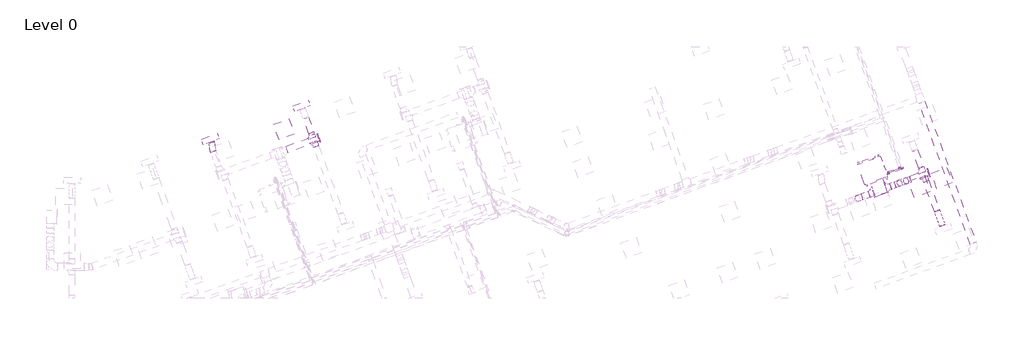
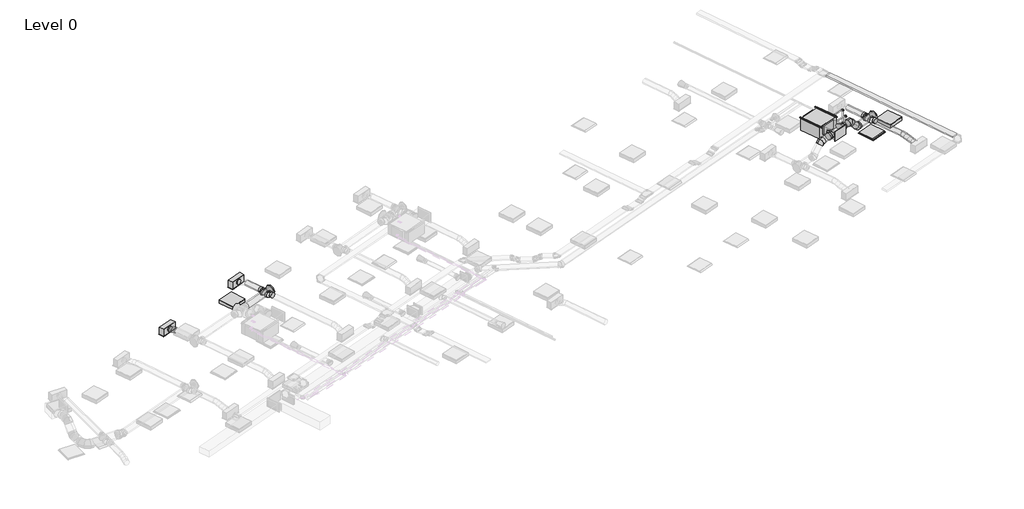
# One storey, part 29 of 34: 12 duct fittings, 11 duct segments, 6 pipe fittings, 4 pipe segments, 3 air terminals, 2 light fixtures, 1 cable carrier segment, 1 proxy.
"""IFC4 building model written with IfcOpenShell, lengths in millimetres."""

from ifc_helpers import new_model, si_unit, point, frame, frame_2d, origin, place, context, project, spatial, polyline, circle_curve, ellipse_curve, trimmed, segment, composite_curve, outline, extrude, transform, mapped, element, save
from ifc_brep_helpers import plane_surface, cylinder_surface, advanced_brep
from components import return_grille_rectangular_hosted_standard_7b12617c, supply_diffuser_with_plenum_linear_slot_hosted_8c379eed, fan_coil_unit_ceiling_ducted_chw_376_lps_9c8cc8ac, dw144_rectangular_blank_end_standard_1669e3e3, dw144_round_blank_end_standard_e3d0b58b, dw144_round_segmented_bend_slip_joint_standard_636bd9c1, dw144_round_shoe_branch_slip_joint1_standard_2_15a2edd8, dw144_round_shoe_branch_slip_joint1_standard_2_4a92c8a1, dw144_round_shoe_branch_slip_joint1_standard_2_671412f0, troffer_light_2x2_parabolic_2_x2_2_lamp_120v_6a063ff3, elbow_threaded_gmi_standard_b4aa7741, socket_reducing_threaded_gmi_standard_0a4076b8

model = new_model("IFC4")

# Units and contexts
model_context = context("Model", 3, world=origin())
ifc_project = project(units=[si_unit("LENGTHUNIT", "METRE", prefix="MILLI")], contexts=[model_context])

# Site, building, storey
site = spatial("IfcSite", under=ifc_project)
building = spatial("IfcBuilding", under=site)
storey = spatial("IfcBuildingStorey", under=building, Name="Level 0", Elevation=0.0)

# Air terminals
placement = place(None, origin())
return_grille_rectangular_hosted_standard_shape = return_grille_rectangular_hosted_standard_7b12617c(model_context)
element("IfcAirTerminal", 1, ObjectType="Return Grille - Rectangular - Hosted : Standard", at=placement, inside=storey, context=model_context, shape_type="MappedRepresentation", body=[
    mapped(return_grille_rectangular_hosted_standard_shape, transform((62324.0047402, 14540.1267847, 2800.0), x_axis=(0.9396926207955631, 0.3420201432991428, 0.0), y_axis=(0.3420201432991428, -0.9396926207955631, 0.0), z_axis=(0.0, 0.0, -1.0))),
])
supply_diffuser_with_plenum_linear_slot_hosted_shape = supply_diffuser_with_plenum_linear_slot_hosted_8c379eed(model_context)
element("IfcAirTerminal", 2, ObjectType="Supply Diffuser with Plenum - Linear Slot - Hosted : 24\" x 8\"-200 In Inlet  4-Slot", at=placement, inside=storey, context=model_context, shape_type="MappedRepresentation", body=[
    mapped(supply_diffuser_with_plenum_linear_slot_hosted_shape, transform((35911.9429146, 16306.0157494, 2800.0), x_axis=(-0.9396926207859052, -0.3420201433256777, 0.0), y_axis=(-0.3420201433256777, 0.9396926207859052, 0.0), z_axis=(0.0, 0.0, -1.0))),
])
element("IfcAirTerminal", 3, ObjectType="Supply Diffuser with Plenum - Linear Slot - Hosted : 24\" x 8\"-200 In Inlet  4-Slot", at=placement, inside=storey, context=model_context, shape_type="MappedRepresentation", body=[
    mapped(supply_diffuser_with_plenum_linear_slot_hosted_shape, transform((39305.8307526, 17541.2899009, 2800.0), x_axis=(-0.9396926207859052, -0.3420201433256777, 0.0), y_axis=(-0.3420201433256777, 0.9396926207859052, 0.0), z_axis=(0.0, 0.0, -1.0))),
])

# Proxy
fan_coil_unit_ceiling_ducted_chw_376_lps_shape = fan_coil_unit_ceiling_ducted_chw_376_lps_9c8cc8ac(model_context)
element("IfcBuildingElementProxy", 4, Name="Fan Coil Unit - Ceiling Ducted - CHW : 376 LPS", ObjectType="Fan Coil Unit - Ceiling Ducted - CHW : 376 LPS", at=placement, inside=storey, context=model_context, shape_type="MappedRepresentation", body=[
    mapped(fan_coil_unit_ceiling_ducted_chw_376_lps_shape, transform((60297.8420212, 14594.4554515, 3215.575), x_axis=(0.9396926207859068, 0.34202014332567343, 0.0), y_axis=(-0.34202014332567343, 0.9396926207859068, 0.0), z_axis=(0.0, 0.0, 1.0))),
])

# Cable carrier segment
element("IfcCableCarrierSegment", 5, ObjectType="Perforated Cable Tray", at=placement, inside=storey, context=model_context, shape_type="SweptSolid", body=[
    extrude(outline(polyline([(62316.5561069, 17642.8846749), (62527.9869466, 17719.8392071), (64443.8977173, 12455.9176269), (64232.4668776, 12378.9630947), (62316.5561069, 17642.8846749)])), frame((0.0, 0.0, 3223.9627355), z_axis=(0.0, 0.0, 1.0), x_axis=(1.0, 0.0, 0.0)), (0.0, 0.0, 1.0), 50.0),
])

# Duct fittings
dw144_rectangular_blank_end_standard_shape = dw144_rectangular_blank_end_standard_1669e3e3(model_context)
element("IfcDuctFitting", 6, ObjectType="DW144 Rectangular Blank End : Standard", at=placement, inside=storey, context=model_context, shape_type="MappedRepresentation", body=[
    mapped(dw144_rectangular_blank_end_standard_shape, transform((60913.8704656, 14238.6945827, 3469.575), x_axis=(0.34202014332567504, -0.9396926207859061, 0.0), y_axis=(0.9396926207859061, 0.34202014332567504, 0.0), z_axis=(0.0, 0.0, 1.0))),
])
dw144_round_blank_end_standard_shape = dw144_round_blank_end_standard_e3d0b58b(model_context)
element("IfcDuctFitting", 7, ObjectType="DW144 Round Blank End : Standard", at=placement, inside=storey, context=model_context, shape_type="MappedRepresentation", body=[
    mapped(dw144_round_blank_end_standard_shape, transform((39941.5121166, 16343.1470586, 3072.2088531), x_axis=(0.9396926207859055, 0.3420201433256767, 0.0), y_axis=(-0.3420201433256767, 0.9396926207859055, 0.0), z_axis=(0.0, 0.0, 1.0))),
])
element("IfcDuctFitting", 8, ObjectType="DW144 Round Blank End : Standard", at=placement, inside=storey, context=model_context, shape_type="MappedRepresentation", body=[
    mapped(dw144_round_blank_end_standard_shape, transform((62668.7217522, 15052.7517594, 3072.2088531), x_axis=(0.9396926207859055, 0.3420201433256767, 0.0), y_axis=(-0.3420201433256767, 0.9396926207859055, 0.0), z_axis=(0.0, 0.0, 1.0))),
])
dw144_round_segmented_bend_slip_joint_standard_shape = dw144_round_segmented_bend_slip_joint_standard_636bd9c1(model_context)
element("IfcDuctFitting", 9, ObjectType="DW144 Round Segmented Bend - Slip Joint : Standard", at=placement, inside=storey, context=model_context, shape_type="MappedRepresentation", body=[
    mapped(dw144_round_segmented_bend_slip_joint_standard_shape, transform((61898.7954922, 14772.5215182, 3072.2088531), x_axis=(0.6644630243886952, 0.24184476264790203, -0.7071067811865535), y_axis=(0.6644630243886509, 0.2418447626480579, 0.7071067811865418), z_axis=(0.3420201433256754, -0.939692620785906, 0.0))),
])
element("IfcDuctFitting", 10, ObjectType="DW144 Round Segmented Bend - Slip Joint : Standard", at=placement, inside=storey, context=model_context, shape_type="MappedRepresentation", body=[
    mapped(dw144_round_segmented_bend_slip_joint_standard_shape, transform((61525.3934562, 14636.6142917, 3469.575), x_axis=(0.9396926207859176, 0.3420201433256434, 0.0), y_axis=(0.0, 0.0, -1.0), z_axis=(-0.3420201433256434, 0.9396926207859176, 0.0))),
])
element("IfcDuctFitting", 11, ObjectType="DW144 Round Segmented Bend - Slip Joint : Standard", at=placement, inside=storey, context=model_context, shape_type="MappedRepresentation", body=[
    mapped(dw144_round_segmented_bend_slip_joint_standard_shape, transform((60097.0606726, 14116.7436739, 3469.575), x_axis=(-0.9396926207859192, -0.3420201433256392, 0.0), y_axis=(0.0, 0.0, -1.0000000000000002), z_axis=(0.3420201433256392, -0.9396926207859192, 0.0))),
])
dw144_round_shoe_branch_slip_joint1_standard_2_shape = dw144_round_shoe_branch_slip_joint1_standard_2_15a2edd8(model_context)
element("IfcDuctFitting", 12, ObjectType="DW144 Round Shoe Branch - Slip Joint1 : Standard 2", at=placement, inside=storey, context=model_context, shape_type="MappedRepresentation", body=[
    mapped(dw144_round_shoe_branch_slip_joint1_standard_2_shape, transform((39722.5145153, 16396.4606719, 3072.2088531), x_axis=(-0.3420201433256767, 0.9396926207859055, 0.0), y_axis=(0.9396926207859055, 0.3420201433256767, 0.0), z_axis=(0.0, 0.0, -1.0))),
])
element("IfcDuctFitting", 13, ObjectType="DW144 Round Shoe Branch - Slip Joint1 : Standard 2", at=placement, inside=storey, context=model_context, shape_type="MappedRepresentation", body=[
    mapped(dw144_round_shoe_branch_slip_joint1_standard_2_shape, transform((39808.0195511, 16161.5375167, 3072.2088531), x_axis=(0.3420201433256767, -0.9396926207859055, 0.0), y_axis=(0.9396926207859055, 0.3420201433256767, 0.0), z_axis=(0.0, 0.0, 1.0))),
])
element("IfcDuctFitting", 14, ObjectType="DW144 Round Shoe Branch - Slip Joint1 : Standard 2", at=placement, inside=storey, context=model_context, shape_type="MappedRepresentation", body=[
    mapped(dw144_round_shoe_branch_slip_joint1_standard_2_shape, transform((62449.7241509, 15106.0653727, 3072.2088531), x_axis=(-0.3420201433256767, 0.9396926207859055, 0.0), y_axis=(0.9396926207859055, 0.3420201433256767, 0.0), z_axis=(0.0, 0.0, -1.0))),
])
element("IfcDuctFitting", 15, ObjectType="DW144 Round Shoe Branch - Slip Joint1 : Standard 2", at=placement, inside=storey, context=model_context, shape_type="MappedRepresentation", body=[
    mapped(dw144_round_shoe_branch_slip_joint1_standard_2_shape, transform((62535.2291867, 14871.1422175, 3072.2088531), x_axis=(0.3420201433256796, -0.9396926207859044, 0.0), y_axis=(0.9396926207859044, 0.3420201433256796, 0.0), z_axis=(0.0, 0.0, 1.0))),
])
dw144_round_shoe_branch_slip_joint1_standard_2_2_shape = dw144_round_shoe_branch_slip_joint1_standard_2_4a92c8a1(model_context)
element("IfcDuctFitting", 16, ObjectType="DW144 Round Shoe Branch - Slip Joint1 : Standard 2", at=placement, inside=storey, context=model_context, shape_type="MappedRepresentation", body=[
    mapped(dw144_round_shoe_branch_slip_joint1_standard_2_2_shape, transform((61092.4392924, 14479.0318633, 3469.575), x_axis=(0.9396926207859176, 0.3420201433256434, 0.0), y_axis=(0.3420201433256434, -0.9396926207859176, 0.0), z_axis=(0.0, 0.0, -1.0))),
])
dw144_round_shoe_branch_slip_joint1_standard_2_3_shape = dw144_round_shoe_branch_slip_joint1_standard_2_671412f0(model_context)
element("IfcDuctFitting", 17, ObjectType="DW144 Round Shoe Branch - Slip Joint1 : Standard 2", at=placement, inside=storey, context=model_context, shape_type="MappedRepresentation", body=[
    mapped(dw144_round_shoe_branch_slip_joint1_standard_2_3_shape, transform((60622.592982, 14308.0217916, 3469.575), x_axis=(-0.9396926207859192, -0.3420201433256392, 0.0), y_axis=(-0.3420201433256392, 0.9396926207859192, 0.0), z_axis=(0.0, 0.0, -1.0))),
])

# Duct segments
element("IfcDuctSegment", 18, ObjectType="DW144 Flanged Med Radius Bend / Shoe Branch", at=placement, inside=storey, context=model_context, shape_type="SweptSolid", body=[
    extrude(outline(polyline([(60501.2336439, 14641.4538326), (60971.0799543, 14812.4639042), (61148.7936208, 14324.1996185), (60678.9473104, 14153.1895468), (60501.2336439, 14641.4538326)])), frame((0.0, 0.0, 3294.575), z_axis=(0.0, 0.0, 1.0), x_axis=(1.0, 0.0, 0.0)), (0.0, 0.0, 1.0), 350.0),
])
element("IfcDuctSegment", 19, ObjectType="DW144 Segmented Bend / Shoe Branch", at=placement, inside=storey, context=model_context, shape_type="SweptSolid", body=[
    extrude(outline(composite_curve([segment(trimmed(circle_curve(frame_2d((0.0, 125.0)), 125.0), [point((125.0, 125.0))], [point((0.0, 0.0))], False, "CARTESIAN"), True, "CONTINUOUS"), segment(trimmed(circle_curve(frame_2d((0.0, 125.0)), 125.0), [point((0.0, 0.0))], [point((-125.0, 125.0))], False, "CARTESIAN"), True, "CONTINUOUS"), segment(trimmed(circle_curve(frame_2d((0.0, 125.0)), 125.0), [point((-125.0, 125.0))], [point((0.0, 250.0))], False, "CARTESIAN"), True, "CONTINUOUS"), segment(trimmed(circle_curve(frame_2d((0.0, 125.0)), 125.0), [point((0.0, 250.0))], [point((125.0, 125.0))], False, "CARTESIAN"), True, "CONTINUOUS")], self_intersect=False)), frame((38766.9179686, 15915.6297514, 3197.2088531), z_axis=(0.9396926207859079, 0.3420201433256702, 0.0), x_axis=(0.3420201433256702, -0.9396926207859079, 0.0)), (0.0, 0.0, 1.0), 1249.976984),
])
element("IfcDuctSegment", 20, ObjectType="DW144 Segmented Bend / Shoe Branch", at=placement, inside=storey, context=model_context, shape_type="SweptSolid", body=[
    extrude(outline(composite_curve([segment(trimmed(circle_curve(frame_2d((0.0, 100.0)), 100.0), [point((100.0, 100.0))], [point((0.0, 0.0))], False, "CARTESIAN"), True, "CONTINUOUS"), segment(trimmed(circle_curve(frame_2d((0.0, 100.0)), 100.0), [point((0.0, 0.0))], [point((-100.0, 100.0))], False, "CARTESIAN"), True, "CONTINUOUS"), segment(trimmed(circle_curve(frame_2d((0.0, 100.0)), 100.0), [point((-100.0, 100.0))], [point((0.0, 200.0))], False, "CARTESIAN"), True, "CONTINUOUS"), segment(trimmed(circle_curve(frame_2d((0.0, 100.0)), 100.0), [point((0.0, 200.0))], [point((100.0, 100.0))], False, "CARTESIAN"), True, "CONTINUOUS")], self_intersect=False)), frame((39671.2114938, 16537.414565, 3172.2088531), z_axis=(-0.3420201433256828, 0.9396926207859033, 0.0), x_axis=(0.9396926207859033, 0.3420201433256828, 0.0)), (0.0, 0.0, 1.0), 590.0),
])
element("IfcDuctSegment", 21, ObjectType="DW144 Segmented Bend / Shoe Branch", at=placement, inside=storey, context=model_context, shape_type="SweptSolid", body=[
    extrude(outline(composite_curve([segment(trimmed(circle_curve(frame_2d((0.0, -125.0)), 125.0), [point((-125.0, -125.0))], [point((0.0, 0.0))], False, "CARTESIAN"), True, "CONTINUOUS"), segment(trimmed(circle_curve(frame_2d((0.0, -125.0)), 125.0), [point((0.0, 0.0))], [point((125.0, -125.0))], False, "CARTESIAN"), True, "CONTINUOUS"), segment(trimmed(circle_curve(frame_2d((0.0, -125.0)), 125.0), [point((125.0, -125.0))], [point((0.0, -250.0))], False, "CARTESIAN"), True, "CONTINUOUS"), segment(trimmed(circle_curve(frame_2d((0.0, -125.0)), 125.0), [point((0.0, -250.0))], [point((-125.0, -125.0))], False, "CARTESIAN"), True, "CONTINUOUS")], self_intersect=False)), frame((61996.1038492, 14807.9388637, 2947.2088531), z_axis=(0.9396926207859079, 0.3420201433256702, 0.0), x_axis=(0.3420201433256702, -0.9396926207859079, 0.0)), (0.0, 0.0, 1.0), 715.7850217),
])
element("IfcDuctSegment", 22, ObjectType="DW144 Segmented Bend / Shoe Branch", at=placement, inside=storey, context=model_context, shape_type="SweptSolid", body=[
    extrude(outline(composite_curve([segment(trimmed(circle_curve(frame_2d((0.0, 100.0)), 100.0), [point((99.9999999, 100.0))], [point((0.0, 0.0))], False, "CARTESIAN"), True, "CONTINUOUS"), segment(trimmed(circle_curve(frame_2d((0.0, 100.0)), 100.0), [point((0.0, 0.0))], [point((-100.0, 100.0))], False, "CARTESIAN"), True, "CONTINUOUS"), segment(trimmed(circle_curve(frame_2d((0.0, 100.0)), 100.0), [point((-100.0, 100.0))], [point((0.0, 200.0))], False, "CARTESIAN"), True, "CONTINUOUS"), segment(trimmed(circle_curve(frame_2d((0.0, 100.0)), 100.0), [point((0.0, 200.0))], [point((99.9999999, 100.0))], False, "CARTESIAN"), True, "CONTINUOUS")], self_intersect=False)), frame((62398.4211294, 15247.0192659, 3172.2088531), z_axis=(-0.3420201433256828, 0.9396926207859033, 0.0), x_axis=(0.9396926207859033, 0.3420201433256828, 0.0)), (0.0, 0.0, 1.0), 682.8884371),
])
element("IfcDuctSegment", 23, ObjectType="DW144 Segmented Bend / Shoe Branch", at=placement, inside=storey, context=model_context, shape_type="SweptSolid", body=[
    extrude(outline(composite_curve([segment(trimmed(circle_curve(frame_2d((0.0, -100.0)), 100.0), [point((-100.0, -100.0))], [point((0.0, 0.0))], False, "CARTESIAN"), True, "CONTINUOUS"), segment(trimmed(circle_curve(frame_2d((0.0, -100.0)), 100.0), [point((0.0, 0.0))], [point((100.0, -100.0))], False, "CARTESIAN"), True, "CONTINUOUS"), segment(trimmed(circle_curve(frame_2d((0.0, -100.0)), 100.0), [point((100.0, -100.0))], [point((0.0, -200.0))], False, "CARTESIAN"), True, "CONTINUOUS"), segment(trimmed(circle_curve(frame_2d((0.0, -100.0)), 100.0), [point((0.0, -200.0))], [point((-100.0, -100.0))], False, "CARTESIAN"), True, "CONTINUOUS")], self_intersect=False)), frame((62987.2757878, 13629.1543884, 2972.2088531), z_axis=(-0.34202014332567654, 0.9396926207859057, 0.0), x_axis=(0.9396926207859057, 0.34202014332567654, 0.0)), (0.0, 0.0, 1.0), 1171.6958415),
])
element("IfcDuctSegment", 24, ObjectType="DW144 Segmented Bend / Shoe Branch", at=placement, inside=storey, context=model_context, shape_type="SweptSolid", body=[
    extrude(outline(composite_curve([segment(trimmed(circle_curve(frame_2d((0.0, 125.0)), 125.0), [point((124.9999999, 125.0))], [point((0.0, 0.0))], False, "CARTESIAN"), True, "CONTINUOUS"), segment(trimmed(circle_curve(frame_2d((0.0, 125.0)), 125.0), [point((0.0, 0.0))], [point((-125.0, 125.0))], False, "CARTESIAN"), True, "CONTINUOUS"), segment(trimmed(circle_curve(frame_2d((0.0, 125.0)), 125.0), [point((-125.0, 125.0))], [point((0.0, 250.0))], False, "CARTESIAN"), True, "CONTINUOUS"), segment(trimmed(circle_curve(frame_2d((0.0, 125.0)), 125.0), [point((0.0, 250.0))], [point((124.9999999, 125.0))], False, "CARTESIAN"), True, "CONTINUOUS")], self_intersect=False)), frame((61256.885501, 14538.8853883, 3594.575), z_axis=(0.9396926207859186, 0.3420201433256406, 0.0), x_axis=(0.3420201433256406, -0.9396926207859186, 0.0)), (0.0, 0.0, 1.0), 182.1868071),
])
element("IfcDuctSegment", 25, ObjectType="DW144 Segmented Bend / Shoe Branch", at=placement, inside=storey, context=model_context, shape_type="SweptSolid", body=[
    extrude(outline(composite_curve([segment(trimmed(circle_curve(frame_2d((0.0, -125.0)), 125.0), [point((-125.0, -125.0))], [point((0.0, 0.0))], False, "CARTESIAN"), True, "CONTINUOUS"), segment(trimmed(circle_curve(frame_2d((0.0, -125.0)), 125.0), [point((0.0, 0.0))], [point((125.0, -125.0))], False, "CARTESIAN"), True, "CONTINUOUS"), segment(trimmed(circle_curve(frame_2d((0.0, -125.0)), 125.0), [point((125.0, -125.0))], [point((0.0, -250.0))], False, "CARTESIAN"), True, "CONTINUOUS"), segment(trimmed(circle_curve(frame_2d((0.0, -125.0)), 125.0), [point((0.0, -250.0))], [point((-125.0, -125.0))], False, "CARTESIAN"), True, "CONTINUOUS")], self_intersect=False)), frame((60194.3690296, 14152.1610194, 3344.575), z_axis=(0.9396926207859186, 0.3420201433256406, 0.0), x_axis=(0.3420201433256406, -0.9396926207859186, 0.0)), (0.0, 0.0, 1.0), 280.7064117),
])
element("IfcDuctSegment", 26, ObjectType="DW144 Segmented Bend / Shoe Branch", at=placement, inside=storey, context=model_context, shape_type="SweptSolid", body=[
    extrude(outline(composite_curve([segment(trimmed(circle_curve(frame_2d((0.0, -125.0)), 125.0), [point((57.2076922, -236.1408113))], [point((-111.1408114, -182.2076923))], False, "CARTESIAN"), True, "CONTINUOUS"), segment(trimmed(circle_curve(frame_2d((0.0, -125.0)), 125.0), [point((-111.1408114, -182.2076923))], [point((-57.2076923, -13.8591886))], False, "CARTESIAN"), True, "CONTINUOUS"), segment(trimmed(circle_curve(frame_2d((0.0, -125.0)), 125.0), [point((-57.2076923, -13.8591886))], [point((111.1408113, -67.7923077))], False, "CARTESIAN"), True, "CONTINUOUS"), segment(trimmed(circle_curve(frame_2d((0.0, -125.0)), 125.0), [point((111.1408113, -67.7923077))], [point((57.2076922, -236.1408113))], False, "CARTESIAN"), True, "CONTINUOUS")], self_intersect=False)), frame((61829.9880931, 14865.7512541, 3185.884105), z_axis=(-0.6644630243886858, -0.24184476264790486, 0.7071067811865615), x_axis=(0.7473211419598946, -0.2150305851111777, 0.6287073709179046)), (0.0, 0.0, 1.0), 354.8538129),
])
element("IfcDuctSegment", 27, ObjectType="Flex - Round", at=placement, inside=storey, context=model_context, shape_type="AdvancedBrep", body=[
    advanced_brep(
    [(35924.0047582, 15801.4077374, 3072.2088531), (36017.9740203, 15835.6097517, 2972.2088531), (36111.9432824, 15869.8117661, 3072.2088531), (36017.9740203, 15835.6097517, 3172.2088531), (35916.3743032, 15822.3722403, 3072.2088531), (36015.9897132, 15841.0615907, 2972.2088531), (36108.1756109, 15880.1633583, 3072.2088531), (36008.5602009, 15861.4740079, 3172.2088531), (35862.0600489, 16150.6873563, 2954.4), (35956.029311, 16184.8893706, 3054.4), (36049.9985731, 16219.0913849, 2954.4), (35956.029311, 16184.8893706, 2854.4), (35901.0047451, 15886.5928885, 3057.7411781), (36007.5007644, 15876.532083, 2964.2180345), (36097.5133869, 15924.7147327, 3062.1722867), (35991.0173676, 15934.7755382, 3155.6954303), (35890.9852261, 15962.3554206, 3026.0114711), (35999.801173, 15934.7524967, 2939.8350497), (36089.0810347, 15988.4759131, 3035.4688025), (35980.2650877, 16016.078837, 3121.645224), (35884.9222967, 16032.0232092, 2991.1400506), (35993.7382436, 16004.4202853, 2904.9636291), (36083.0181052, 16058.1437017, 3000.597382), (35974.2021583, 16085.7466257, 3086.7738035), (35876.4899444, 16095.7843897, 2964.4365665), (35982.9859637, 16085.7235841, 2870.9134228), (36072.9985862, 16133.9062338, 2968.867675), (35966.5025669, 16143.9670393, 3062.3908187), (35865.8277204, 16140.335764, 2954.4), (35965.4431304, 16159.0251144, 2854.4), (36057.6290281, 16198.126882, 2954.4), (35958.0136181, 16179.4375316, 3054.4)],
    [
        (0, 1, circle_curve(frame((36017.9740203, 15835.6097517, 3072.2088531), z_axis=(0.3420201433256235, -0.9396926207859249, 0.0), x_axis=(-0.9396926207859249, -0.3420201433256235, 0.0)), 100.0)),
        (1, 2, circle_curve(frame((36017.9740203, 15835.6097517, 3072.2088531), z_axis=(0.3420201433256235, -0.9396926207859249, 0.0), x_axis=(-0.9396926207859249, -0.3420201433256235, 0.0)), 100.0)),
        (2, 3, circle_curve(frame((36017.9740203, 15835.6097517, 3072.2088531), z_axis=(0.3420201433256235, -0.9396926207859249, 0.0), x_axis=(-0.9396926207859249, -0.3420201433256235, 0.0)), 100.0)),
        (3, 0, circle_curve(frame((36017.9740203, 15835.6097517, 3072.2088531), z_axis=(0.3420201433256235, -0.9396926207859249, 0.0), x_axis=(-0.9396926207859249, -0.3420201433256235, 0.0)), 100.0)),
        (0, 4),
        (4, 5, ellipse_curve(frame((36012.274957, 15851.2677993, 3072.2088531), z_axis=(0.28681455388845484, -0.9519007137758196, 0.10780743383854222), x_axis=(0.47182638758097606, 0.04242446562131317, -0.8806702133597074)), 100.746488, 100.0)),
        (5, 1),
        (5, 6, ellipse_curve(frame((36012.274957, 15851.2677993, 3072.2088531), z_axis=(0.28681455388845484, -0.9519007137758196, 0.10780743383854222), x_axis=(0.47182638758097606, 0.04242446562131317, -0.8806702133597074)), 100.746488, 100.0)),
        (6, 2),
        (6, 7, ellipse_curve(frame((36012.274957, 15851.2677993, 3072.2088531), z_axis=(0.28681455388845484, -0.9519007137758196, 0.10780743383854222), x_axis=(0.47182638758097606, 0.04242446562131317, -0.8806702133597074)), 100.746488, 100.0)),
        (7, 3),
        (7, 4, ellipse_curve(frame((36012.274957, 15851.2677993, 3072.2088531), z_axis=(0.28681455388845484, -0.9519007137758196, 0.10780743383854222), x_axis=(0.47182638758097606, 0.04242446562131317, -0.8806702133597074)), 100.746488, 100.0)),
        (8, 9, circle_curve(frame((35956.029311, 16184.8893706, 2954.4), z_axis=(-0.34202014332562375, 0.9396926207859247, 0.0), x_axis=(-0.9396926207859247, -0.34202014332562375, 0.0)), 100.0)),
        (9, 10, circle_curve(frame((35956.029311, 16184.8893706, 2954.4), z_axis=(-0.34202014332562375, 0.9396926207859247, 0.0), x_axis=(-0.9396926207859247, -0.34202014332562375, 0.0)), 100.0)),
        (10, 11, circle_curve(frame((35956.029311, 16184.8893706, 2954.4), z_axis=(-0.34202014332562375, 0.9396926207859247, 0.0), x_axis=(-0.9396926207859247, -0.34202014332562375, 0.0)), 100.0)),
        (11, 8, circle_curve(frame((35956.029311, 16184.8893706, 2954.4), z_axis=(-0.34202014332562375, 0.9396926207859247, 0.0), x_axis=(-0.9396926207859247, -0.34202014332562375, 0.0)), 100.0)),
        (4, 12),
        (12, 13, ellipse_curve(frame((35999.259066, 15905.6538106, 3059.9567324), z_axis=(0.17512607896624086, -0.9376352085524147, 0.30028498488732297), x_axis=(0.5236540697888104, -0.16957305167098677, -0.8348840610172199)), 100.5188435, 100.0)),
        (13, 5),
        (13, 14, ellipse_curve(frame((35999.259066, 15905.6538106, 3059.9567324), z_axis=(0.17512607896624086, -0.9376352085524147, 0.30028498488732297), x_axis=(0.5236540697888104, -0.16957305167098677, -0.8348840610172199)), 100.5188435, 100.0)),
        (14, 6),
        (14, 15, ellipse_curve(frame((35999.259066, 15905.6538106, 3059.9567324), z_axis=(0.17512607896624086, -0.9376352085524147, 0.30028498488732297), x_axis=(0.5236540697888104, -0.16957305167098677, -0.8348840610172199)), 100.5188435, 100.0)),
        (15, 7),
        (15, 12, ellipse_curve(frame((35999.259066, 15905.6538106, 3059.9567324), z_axis=(0.17512607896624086, -0.9376352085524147, 0.30028498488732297), x_axis=(0.5236540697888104, -0.16957305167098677, -0.8348840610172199)), 100.5188435, 100.0)),
        (12, 16),
        (16, 17, ellipse_curve(frame((35990.0331304, 15975.4156668, 3030.7401368), z_axis=(0.09941622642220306, -0.9042889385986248, 0.4151842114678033), x_axis=(0.5431382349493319, -0.30029372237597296, -0.7841074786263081)), 100.0802707, 100.0)),
        (17, 13),
        (17, 18, ellipse_curve(frame((35990.0331304, 15975.4156668, 3030.7401368), z_axis=(0.09941622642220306, -0.9042889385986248, 0.4151842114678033), x_axis=(0.5431382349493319, -0.30029372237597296, -0.7841074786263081)), 100.0802707, 100.0)),
        (18, 14),
        (18, 19, ellipse_curve(frame((35990.0331304, 15975.4156668, 3030.7401368), z_axis=(0.09941622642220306, -0.9042889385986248, 0.4151842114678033), x_axis=(0.5431382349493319, -0.30029372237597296, -0.7841074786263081)), 100.0802707, 100.0)),
        (19, 15),
        (19, 16, ellipse_curve(frame((35990.0331304, 15975.4156668, 3030.7401368), z_axis=(0.09941622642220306, -0.9042889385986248, 0.4151842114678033), x_axis=(0.5431382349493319, -0.30029372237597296, -0.7841074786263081)), 100.0802707, 100.0)),
        (16, 20),
        (20, 21, ellipse_curve(frame((35983.9702009, 16045.0834555, 2995.8687163), z_axis=(0.0994162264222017, -0.9042889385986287, 0.4151842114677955), x_axis=(-0.5431382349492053, 0.3002937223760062, 0.7841074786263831)), 100.0802707, 100.0)),
        (21, 17),
        (21, 22, ellipse_curve(frame((35983.9702009, 16045.0834555, 2995.8687163), z_axis=(0.0994162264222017, -0.9042889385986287, 0.4151842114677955), x_axis=(-0.5431382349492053, 0.3002937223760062, 0.7841074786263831)), 100.0802707, 100.0)),
        (22, 18),
        (22, 23, ellipse_curve(frame((35983.9702009, 16045.0834555, 2995.8687163), z_axis=(0.0994162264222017, -0.9042889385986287, 0.4151842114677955), x_axis=(-0.5431382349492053, 0.3002937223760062, 0.7841074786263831)), 100.0802707, 100.0)),
        (23, 19),
        (23, 20, ellipse_curve(frame((35983.9702009, 16045.0834555, 2995.8687163), z_axis=(0.0994162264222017, -0.9042889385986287, 0.4151842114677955), x_axis=(-0.5431382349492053, 0.3002937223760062, 0.7841074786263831)), 100.0802707, 100.0)),
        (20, 24),
        (24, 25, ellipse_curve(frame((35974.7442653, 16114.8453117, 2966.6521207), z_axis=(0.17512607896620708, -0.9376352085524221, 0.30028498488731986), x_axis=(-0.5236540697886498, 0.16957305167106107, 0.8348840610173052)), 100.5188435, 100.0)),
        (25, 21),
        (25, 26, ellipse_curve(frame((35974.7442653, 16114.8453117, 2966.6521207), z_axis=(0.17512607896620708, -0.9376352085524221, 0.30028498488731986), x_axis=(-0.5236540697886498, 0.16957305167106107, 0.8348840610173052)), 100.5188435, 100.0)),
        (26, 22),
        (26, 27, ellipse_curve(frame((35974.7442653, 16114.8453117, 2966.6521207), z_axis=(0.17512607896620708, -0.9376352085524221, 0.30028498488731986), x_axis=(-0.5236540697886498, 0.16957305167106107, 0.8348840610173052)), 100.5188435, 100.0)),
        (27, 23),
        (27, 24, ellipse_curve(frame((35974.7442653, 16114.8453117, 2966.6521207), z_axis=(0.17512607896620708, -0.9376352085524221, 0.30028498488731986), x_axis=(-0.5236540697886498, 0.16957305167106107, 0.8348840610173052)), 100.5188435, 100.0)),
        (24, 28),
        (28, 29, ellipse_curve(frame((35961.7283743, 16169.231323, 2954.4), z_axis=(0.2868145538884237, -0.9519007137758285, 0.10780743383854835), x_axis=(-0.4718263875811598, -0.04242446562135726, 0.8806702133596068)), 100.746488, 100.0)),
        (29, 25),
        (29, 30, ellipse_curve(frame((35961.7283743, 16169.231323, 2954.4), z_axis=(0.2868145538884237, -0.9519007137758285, 0.10780743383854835), x_axis=(-0.4718263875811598, -0.04242446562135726, 0.8806702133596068)), 100.746488, 100.0)),
        (30, 26),
        (30, 31, ellipse_curve(frame((35961.7283743, 16169.231323, 2954.4), z_axis=(0.2868145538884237, -0.9519007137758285, 0.10780743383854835), x_axis=(-0.4718263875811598, -0.04242446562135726, 0.8806702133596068)), 100.746488, 100.0)),
        (31, 27),
        (31, 28, ellipse_curve(frame((35961.7283743, 16169.231323, 2954.4), z_axis=(0.2868145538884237, -0.9519007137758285, 0.10780743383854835), x_axis=(-0.4718263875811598, -0.04242446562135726, 0.8806702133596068)), 100.746488, 100.0)),
        (28, 8),
        (11, 29),
        (10, 30),
        (9, 31),
    ],
    [
        plane_surface(frame((36017.9740203, 15835.6097517, 3172.2088531), z_axis=(0.3420201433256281, -0.9396926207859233, 0.0), x_axis=(0.9396926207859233, 0.3420201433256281, 0.0))),
        cylinder_surface(frame((36017.9740203, 15835.6097517, 3072.2088531), z_axis=(0.3420201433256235, -0.9396926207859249, 0.0), x_axis=(-0.9396926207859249, -0.3420201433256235, 0.0)), 100.0),
        plane_surface(frame((35956.029311, 16184.8893706, 3054.4), z_axis=(-0.3420201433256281, 0.9396926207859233, 0.0), x_axis=(0.9396926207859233, 0.3420201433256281, 0.0))),
        cylinder_surface(frame((36012.274957, 15851.2677993, 3072.2088531), z_axis=(0.2273586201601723, -0.9500024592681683, 0.2140172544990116), x_axis=(-0.9718455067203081, -0.2353088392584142, -0.012085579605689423)), 100.0),
        cylinder_surface(frame((35999.259066, 15905.6538106, 3059.9567324), z_axis=(0.12108565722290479, -0.9155884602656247, 0.38345278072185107), x_axis=(-0.9882405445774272, -0.14752885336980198, -0.040197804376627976)), 100.0),
        cylinder_surface(frame((35990.0331304, 15975.4156668, 3030.7401368), z_axis=(0.07758731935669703, -0.8915388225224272, 0.4462496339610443), x_axis=(-0.9919133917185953, -0.11412067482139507, -0.05553642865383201)), 100.0),
        cylinder_surface(frame((35983.9702009, 16045.0834555, 2995.8687163), z_axis=(0.121085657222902, -0.9155884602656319, 0.38345278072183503), x_axis=(-0.9882405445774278, -0.1475288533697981, -0.040197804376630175)), 100.0),
        cylinder_surface(frame((35974.7442653, 16114.8453117, 2966.6521207), z_axis=(0.22735862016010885, -0.950002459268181, 0.21401725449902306), x_axis=(-0.9718455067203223, -0.23530883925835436, -0.012085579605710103)), 100.0),
        cylinder_surface(frame((35961.7283743, 16169.231323, 2954.4), z_axis=(0.34202014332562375, -0.9396926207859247, 0.0), x_axis=(-0.9396926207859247, -0.34202014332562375, 0.0)), 100.0),
    ],
    [
        (0, [[1, 2, 3, 4]]),
        (1, [[-1, 5, 6, 7]]),
        (1, [[-2, -7, 8, 9]]),
        (1, [[-3, -9, 10, 11]]),
        (1, [[-4, -11, 12, -5]]),
        (2, [[13, 14, 15, 16]]),
        (3, [[-6, 17, 18, 19]]),
        (3, [[-8, -19, 20, 21]]),
        (3, [[-10, -21, 22, 23]]),
        (3, [[-12, -23, 24, -17]]),
        (4, [[-18, 25, 26, 27]]),
        (4, [[-20, -27, 28, 29]]),
        (4, [[-22, -29, 30, 31]]),
        (4, [[-24, -31, 32, -25]]),
        (5, [[-26, 33, 34, 35]]),
        (5, [[-28, -35, 36, 37]]),
        (5, [[-30, -37, 38, 39]]),
        (5, [[-32, -39, 40, -33]]),
        (6, [[-34, 41, 42, 43]]),
        (6, [[-36, -43, 44, 45]]),
        (6, [[-38, -45, 46, 47]]),
        (6, [[-40, -47, 48, -41]]),
        (7, [[-42, 49, 50, 51]]),
        (7, [[-44, -51, 52, 53]]),
        (7, [[-46, -53, 54, 55]]),
        (7, [[-48, -55, 56, -49]]),
        (8, [[-50, 57, -16, 58]]),
        (8, [[-52, -58, -15, 59]]),
        (8, [[-54, -59, -14, 60]]),
        (8, [[-56, -60, -13, -57]]),
    ],
),
])
element("IfcDuctSegment", 28, ObjectType="Flex - Round", at=placement, inside=storey, context=model_context, shape_type="AdvancedBrep", body=[
    advanced_brep(
    [(63081.2450499, 13663.3564027, 3072.2088531), (62987.2757878, 13629.1543884, 2972.2088531), (62893.3065257, 13594.952374, 3072.2088531), (62987.2757878, 13629.1543884, 3172.2088531), (63085.4622602, 13651.7697128, 3072.2088531), (62989.1858231, 13623.9066095, 2972.2088531), (62897.523736, 13583.3656841, 3072.2088531), (62993.800173, 13611.2287874, 3172.2088531), (63282.4260532, 13110.616139, 2954.4), (63188.4567912, 13076.4141246, 3054.4), (63094.4875291, 13042.2121103, 2954.4), (63188.4567912, 13076.4141246, 2854.4), (63131.9148616, 13524.1422392, 3053.8012198), (63031.0450129, 13508.8994309, 2955.6214373), (62943.9763375, 13455.7382106, 3053.8012198), (63044.8461862, 13470.9810189, 3151.9810023), (63181.8355516, 13386.9862709, 3013.3044266), (63078.7222223, 13377.9073745, 2916.9446062), (62993.8970274, 13318.5822422, 3013.3044266), (63097.0103566, 13327.6611385, 3109.6642469), (63231.7562415, 13249.8303025, 2972.8076333), (63130.8863928, 13234.5874941, 2874.6278508), (63043.8177174, 13181.4262738, 2972.8076333), (63144.6875661, 13196.6690821, 3070.9874158), (63278.208843, 13122.2028289, 2954.4), (63181.932406, 13094.3397257, 2854.4), (63090.2703188, 13053.7988003, 2954.4), (63186.5467558, 13081.6619035, 3054.4)],
    [
        (0, 1, circle_curve(frame((62987.2757878, 13629.1543884, 3072.2088531), z_axis=(-0.34202014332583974, 0.9396926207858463, 0.0), x_axis=(0.9396926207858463, 0.34202014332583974, 0.0)), 100.0)),
        (1, 2, circle_curve(frame((62987.2757878, 13629.1543884, 3072.2088531), z_axis=(-0.34202014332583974, 0.9396926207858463, 0.0), x_axis=(0.9396926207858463, 0.34202014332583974, 0.0)), 100.0)),
        (2, 3, circle_curve(frame((62987.2757878, 13629.1543884, 3072.2088531), z_axis=(-0.34202014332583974, 0.9396926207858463, 0.0), x_axis=(0.9396926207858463, 0.34202014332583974, 0.0)), 100.0)),
        (3, 0, circle_curve(frame((62987.2757878, 13629.1543884, 3072.2088531), z_axis=(-0.34202014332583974, 0.9396926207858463, 0.0), x_axis=(0.9396926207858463, 0.34202014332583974, 0.0)), 100.0)),
        (0, 4),
        (4, 5, ellipse_curve(frame((62991.4929981, 13617.5676984, 3072.2088531), z_axis=(-0.3412446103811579, 0.9375618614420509, 0.06730432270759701), x_axis=(-0.023019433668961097, 0.06324537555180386, -0.9977324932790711)), 100.227266, 100.0)),
        (5, 1),
        (5, 6, ellipse_curve(frame((62991.4929981, 13617.5676984, 3072.2088531), z_axis=(-0.3412446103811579, 0.9375618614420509, 0.06730432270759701), x_axis=(-0.023019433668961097, 0.06324537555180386, -0.9977324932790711)), 100.227266, 100.0)),
        (6, 2),
        (6, 7, ellipse_curve(frame((62991.4929981, 13617.5676984, 3072.2088531), z_axis=(-0.3412446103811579, 0.9375618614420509, 0.06730432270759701), x_axis=(-0.023019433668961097, 0.06324537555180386, -0.9977324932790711)), 100.227266, 100.0)),
        (7, 3),
        (7, 4, ellipse_curve(frame((62991.4929981, 13617.5676984, 3072.2088531), z_axis=(-0.3412446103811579, 0.9375618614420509, 0.06730432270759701), x_axis=(-0.023019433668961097, 0.06324537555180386, -0.9977324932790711)), 100.227266, 100.0)),
        (8, 9, circle_curve(frame((63188.4567912, 13076.4141246, 2954.4), z_axis=(0.3420201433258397, -0.9396926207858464, 0.0), x_axis=(0.9396926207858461, 0.34202014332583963, 0.0)), 100.0)),
        (9, 10, circle_curve(frame((63188.4567912, 13076.4141246, 2954.4), z_axis=(0.3420201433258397, -0.9396926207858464, 0.0), x_axis=(0.9396926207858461, 0.34202014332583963, 0.0)), 100.0)),
        (10, 11, circle_curve(frame((63188.4567912, 13076.4141246, 2954.4), z_axis=(0.3420201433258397, -0.9396926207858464, 0.0), x_axis=(0.9396926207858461, 0.34202014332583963, 0.0)), 100.0)),
        (11, 8, circle_curve(frame((63188.4567912, 13076.4141246, 2954.4), z_axis=(0.3420201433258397, -0.9396926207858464, 0.0), x_axis=(0.9396926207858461, 0.34202014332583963, 0.0)), 100.0)),
        (4, 12),
        (12, 13, ellipse_curve(frame((63037.9455995, 13489.9402249, 3053.8012198), z_axis=(-0.3350193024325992, 0.9204579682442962, 0.2012938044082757), x_axis=(-0.06884653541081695, 0.1891543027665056, -0.979530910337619)), 100.2314286, 100.0)),
        (13, 5),
        (13, 14, ellipse_curve(frame((63037.9455995, 13489.9402249, 3053.8012198), z_axis=(-0.3350193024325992, 0.9204579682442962, 0.2012938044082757), x_axis=(-0.06884653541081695, 0.1891543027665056, -0.979530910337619)), 100.2314286, 100.0)),
        (14, 6),
        (14, 15, ellipse_curve(frame((63037.9455995, 13489.9402249, 3053.8012198), z_axis=(-0.3350193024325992, 0.9204579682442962, 0.2012938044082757), x_axis=(-0.06884653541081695, 0.1891543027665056, -0.979530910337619)), 100.2314286, 100.0)),
        (15, 7),
        (15, 12, ellipse_curve(frame((63037.9455995, 13489.9402249, 3053.8012198), z_axis=(-0.3350193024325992, 0.9204579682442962, 0.2012938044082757), x_axis=(-0.06884653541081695, 0.1891543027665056, -0.979530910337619)), 100.2314286, 100.0)),
        (12, 16),
        (16, 17, circle_curve(frame((63087.8662895, 13352.7842565, 3013.3044266), z_axis=(-0.32956999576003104, 0.9054861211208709, 0.26735463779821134), x_axis=(0.9396926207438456, 0.34202014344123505, 1.6733896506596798e-11)), 100.0)),
        (17, 13),
        (17, 18, circle_curve(frame((63087.8662895, 13352.7842565, 3013.3044266), z_axis=(-0.32956999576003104, 0.9054861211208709, 0.26735463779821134), x_axis=(0.9396926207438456, 0.34202014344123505, 1.6733896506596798e-11)), 100.0)),
        (18, 14),
        (18, 19, circle_curve(frame((63087.8662895, 13352.7842565, 3013.3044266), z_axis=(-0.32956999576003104, 0.9054861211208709, 0.26735463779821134), x_axis=(0.9396926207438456, 0.34202014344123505, 1.6733896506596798e-11)), 100.0)),
        (19, 15),
        (19, 16, circle_curve(frame((63087.8662895, 13352.7842565, 3013.3044266), z_axis=(-0.32956999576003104, 0.9054861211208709, 0.26735463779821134), x_axis=(0.9396926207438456, 0.34202014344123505, 1.6733896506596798e-11)), 100.0)),
        (16, 20),
        (20, 21, ellipse_curve(frame((63137.7869795, 13215.6282881, 2972.8076333), z_axis=(-0.3350193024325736, 0.920457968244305, 0.20129380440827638), x_axis=(0.06884653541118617, -0.18915430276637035, 0.979530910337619)), 100.2314286, 100.0)),
        (21, 17),
        (21, 22, ellipse_curve(frame((63137.7869795, 13215.6282881, 2972.8076333), z_axis=(-0.3350193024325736, 0.920457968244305, 0.20129380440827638), x_axis=(0.06884653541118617, -0.18915430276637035, 0.979530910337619)), 100.2314286, 100.0)),
        (22, 18),
        (22, 23, ellipse_curve(frame((63137.7869795, 13215.6282881, 2972.8076333), z_axis=(-0.3350193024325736, 0.920457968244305, 0.20129380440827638), x_axis=(0.06884653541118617, -0.18915430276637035, 0.979530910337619)), 100.2314286, 100.0)),
        (23, 19),
        (23, 20, ellipse_curve(frame((63137.7869795, 13215.6282881, 2972.8076333), z_axis=(-0.3350193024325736, 0.920457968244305, 0.20129380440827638), x_axis=(0.06884653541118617, -0.18915430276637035, 0.979530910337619)), 100.2314286, 100.0)),
        (20, 24),
        (24, 25, ellipse_curve(frame((63184.2395809, 13088.0008146, 2954.4), z_axis=(-0.3412446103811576, 0.9375618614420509, 0.06730432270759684), x_axis=(0.02301943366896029, -0.0632453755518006, 0.9977324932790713)), 100.227266, 100.0)),
        (25, 21),
        (25, 26, ellipse_curve(frame((63184.2395809, 13088.0008146, 2954.4), z_axis=(-0.3412446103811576, 0.9375618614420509, 0.06730432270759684), x_axis=(0.02301943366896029, -0.0632453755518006, 0.9977324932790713)), 100.227266, 100.0)),
        (26, 22),
        (26, 27, ellipse_curve(frame((63184.2395809, 13088.0008146, 2954.4), z_axis=(-0.3412446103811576, 0.9375618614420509, 0.06730432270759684), x_axis=(0.02301943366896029, -0.0632453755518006, 0.9977324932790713)), 100.227266, 100.0)),
        (27, 23),
        (27, 24, ellipse_curve(frame((63184.2395809, 13088.0008146, 2954.4), z_axis=(-0.3412446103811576, 0.9375618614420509, 0.06730432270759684), x_axis=(0.02301943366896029, -0.0632453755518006, 0.9977324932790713)), 100.227266, 100.0)),
        (24, 8),
        (11, 25),
        (10, 26),
        (9, 27),
    ],
    [
        plane_surface(frame((62987.2757878, 13629.1543884, 2972.2088531), z_axis=(-0.3420201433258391, 0.9396926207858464, 0.0), x_axis=(0.9396926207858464, 0.3420201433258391, 0.0))),
        cylinder_surface(frame((62987.2757878, 13629.1543884, 3072.2088531), z_axis=(-0.34202014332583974, 0.9396926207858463, 0.0), x_axis=(0.9396926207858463, 0.34202014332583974, 0.0)), 100.0),
        plane_surface(frame((63188.4567912, 13076.4141246, 2854.4), z_axis=(0.3420201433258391, -0.9396926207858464, 0.0), x_axis=(0.9396926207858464, 0.3420201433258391, 0.0))),
        cylinder_surface(frame((62991.4929981, 13617.5676984, 3072.2088531), z_axis=(-0.338921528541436, 0.9311792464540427, 0.13430341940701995), x_axis=(0.939692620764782, 0.3420201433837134, 4.154530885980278e-12)), 100.0),
        cylinder_surface(frame((63037.9455995, 13489.9402249, 3053.8012198), z_axis=(-0.32956999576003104, 0.9054861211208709, 0.26735463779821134), x_axis=(0.9396926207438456, 0.34202014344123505, 1.6733896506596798e-11)), 100.0),
        cylinder_surface(frame((63087.8662895, 13352.7842565, 3013.3044266), z_axis=(-0.32956999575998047, 0.9054861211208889, 0.267354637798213), x_axis=(0.9396926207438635, 0.3420201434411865, 1.6719499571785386e-11)), 100.0),
        cylinder_surface(frame((63137.7869795, 13215.6282881, 2972.8076333), z_axis=(-0.3389215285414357, 0.9311792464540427, 0.13430341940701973), x_axis=(0.9396926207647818, 0.34202014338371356, 4.150878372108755e-12)), 100.0),
        cylinder_surface(frame((63184.2395809, 13088.0008146, 2954.4), z_axis=(-0.34202014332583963, 0.9396926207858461, 0.0), x_axis=(0.9396926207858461, 0.34202014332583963, 0.0)), 100.0),
    ],
    [
        (0, [[1, 2, 3, 4]]),
        (1, [[-1, 5, 6, 7]]),
        (1, [[-2, -7, 8, 9]]),
        (1, [[-3, -9, 10, 11]]),
        (1, [[-4, -11, 12, -5]]),
        (2, [[13, 14, 15, 16]]),
        (3, [[-6, 17, 18, 19]]),
        (3, [[-8, -19, 20, 21]]),
        (3, [[-10, -21, 22, 23]]),
        (3, [[-12, -23, 24, -17]]),
        (4, [[-18, 25, 26, 27]]),
        (4, [[-20, -27, 28, 29]]),
        (4, [[-22, -29, 30, 31]]),
        (4, [[-24, -31, 32, -25]]),
        (5, [[-26, 33, 34, 35]]),
        (5, [[-28, -35, 36, 37]]),
        (5, [[-30, -37, 38, 39]]),
        (5, [[-32, -39, 40, -33]]),
        (6, [[-34, 41, 42, 43]]),
        (6, [[-36, -43, 44, 45]]),
        (6, [[-38, -45, 46, 47]]),
        (6, [[-40, -47, 48, -41]]),
        (7, [[-42, 49, -16, 50]]),
        (7, [[-44, -50, -15, 51]]),
        (7, [[-46, -51, -14, 52]]),
        (7, [[-48, -52, -13, -49]]),
    ],
),
])

# Light fixtures
troffer_light_2x2_parabolic_2_x2_2_lamp_120v_shape = troffer_light_2x2_parabolic_2_x2_2_lamp_120v_6a063ff3(model_context)
element("IfcLightFixture", 29, ObjectType="Troffer Light - 2x2 Parabolic : 2'x2'(2 Lamp) - 120V", at=placement, inside=storey, context=model_context, shape_type="MappedRepresentation", body=[
    mapped(troffer_light_2x2_parabolic_2_x2_2_lamp_120v_shape, transform((38756.9311197, 16383.7467777, 2800.0), x_axis=(0.9396926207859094, 0.34202014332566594, 0.0), y_axis=(0.34202014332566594, -0.9396926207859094, 0.0), z_axis=(0.0, 0.0, -1.0))),
])
element("IfcLightFixture", 30, ObjectType="Troffer Light - 2x2 Parabolic : 2'x2'(2 Lamp) - 120V", at=placement, inside=storey, context=model_context, shape_type="MappedRepresentation", body=[
    mapped(troffer_light_2x2_parabolic_2_x2_2_lamp_120v_shape, transform((63272.334142, 14566.0371273, 2800.0), x_axis=(0.9396926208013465, 0.3420201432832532, 0.0), y_axis=(0.3420201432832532, -0.9396926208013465, 0.0), z_axis=(0.0, 0.0, -1.0))),
])

# Pipe fittings
elbow_threaded_gmi_standard_shape = elbow_threaded_gmi_standard_b4aa7741(model_context)
element("IfcPipeFitting", 31, ObjectType="Elbow - Threaded - GMI : Standard", at=placement, inside=storey, context=model_context, shape_type="MappedRepresentation", body=[
    mapped(elbow_threaded_gmi_standard_shape, transform((61594.4243298, 15228.5535106, 3596.575), x_axis=(0.9396926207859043, 0.34202014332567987, 0.0), y_axis=(0.0, 0.0, -1.0), z_axis=(-0.34202014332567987, 0.9396926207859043, 0.0))),
])
element("IfcPipeFitting", 32, ObjectType="Elbow - Threaded - GMI : Standard", at=placement, inside=storey, context=model_context, shape_type="MappedRepresentation", body=[
    mapped(elbow_threaded_gmi_standard_shape, transform((61594.4243298, 15228.5535106, 3000.0), x_axis=(0.0, 0.0, -1.0), y_axis=(-0.3420201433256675, 0.9396926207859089, 0.0), z_axis=(0.9396926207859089, 0.3420201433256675, 0.0))),
])
element("IfcPipeFitting", 33, ObjectType="Elbow - Threaded - GMI : Standard", at=placement, inside=storey, context=model_context, shape_type="MappedRepresentation", body=[
    mapped(elbow_threaded_gmi_standard_shape, transform((61699.9121465, 15212.8877051, 2925.0), x_axis=(0.34202014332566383, -0.9396926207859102, 0.0), y_axis=(0.0, 0.0, 1.0), z_axis=(-0.9396926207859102, -0.34202014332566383, 0.0))),
])
element("IfcPipeFitting", 34, ObjectType="Elbow - Threaded - GMI : Standard", at=placement, inside=storey, context=model_context, shape_type="MappedRepresentation", body=[
    mapped(elbow_threaded_gmi_standard_shape, transform((61699.9121465, 15212.8877051, 3317.175), x_axis=(0.9396926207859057, 0.34202014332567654, 0.0), y_axis=(0.0, 0.0, -1.0000000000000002), z_axis=(-0.34202014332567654, 0.9396926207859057, 0.0))),
])
socket_reducing_threaded_gmi_standard_shape = socket_reducing_threaded_gmi_standard_0a4076b8(model_context)
element("IfcPipeFitting", 35, ObjectType="Socket Reducing - Threaded - GMI : Standard", at=placement, inside=storey, context=model_context, shape_type="MappedRepresentation", body=[
    mapped(socket_reducing_threaded_gmi_standard_shape, transform((61146.2158997, 15011.3587524, 3317.175), x_axis=(0.9396926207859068, 0.34202014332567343, 0.0), y_axis=(-0.34202014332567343, 0.9396926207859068, 0.0), z_axis=(0.0, 0.0, 1.0))),
])
element("IfcPipeFitting", 36, ObjectType="Socket Reducing - Threaded - GMI : Standard", at=placement, inside=storey, context=model_context, shape_type="MappedRepresentation", body=[
    mapped(socket_reducing_threaded_gmi_standard_shape, transform((61128.8412764, 15059.0951376, 3596.575), x_axis=(0.9396926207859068, 0.34202014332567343, 0.0), y_axis=(-0.34202014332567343, 0.9396926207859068, 0.0), z_axis=(0.0, 0.0, 1.0))),
])

# Pipe segments
element("IfcPipeSegment", 37, ObjectType="Carbon Steel - Threaded", at=placement, inside=storey, context=model_context, shape_type="SweptSolid", body=[
    extrude(outline(composite_curve([segment(trimmed(circle_curve(frame_2d((0.0, -21.45)), 21.45), [point((-21.45, -21.45))], [point((0.0, 0.0))], False, "CARTESIAN"), True, "CONTINUOUS"), segment(trimmed(circle_curve(frame_2d((0.0, -21.45)), 21.45), [point((0.0, 0.0))], [point((21.45, -21.45))], False, "CARTESIAN"), True, "CONTINUOUS"), segment(trimmed(circle_curve(frame_2d((0.0, -21.45)), 21.45), [point((21.45, -21.45))], [point((0.0, -42.9))], False, "CARTESIAN"), True, "CONTINUOUS"), segment(trimmed(circle_curve(frame_2d((0.0, -21.45)), 21.45), [point((0.0, -42.9))], [point((-21.45, -21.45))], False, "CARTESIAN"), True, "CONTINUOUS")], self_intersect=False)), frame((61177.7052927, 15076.880185, 3575.125), z_axis=(0.939692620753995, 0.34202014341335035, 0.0), x_axis=(0.34202014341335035, -0.939692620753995, 0.0)), (0.0, 0.0, 1.0), 398.4631367),
])
element("IfcPipeSegment", 38, ObjectType="Carbon Steel - Threaded", at=placement, inside=storey, context=model_context, shape_type="SweptSolid", body=[
    extrude(outline(composite_curve([segment(trimmed(circle_curve(frame_2d((0.0, 21.45)), 21.45), [point((21.45, 21.45))], [point((0.0, 0.0))], False, "CARTESIAN"), True, "CONTINUOUS"), segment(trimmed(circle_curve(frame_2d((0.0, 21.45)), 21.45), [point((0.0, 0.0))], [point((-21.45, 21.45))], False, "CARTESIAN"), True, "CONTINUOUS"), segment(trimmed(circle_curve(frame_2d((0.0, 21.45)), 21.45), [point((-21.45, 21.45))], [point((0.0, 42.9))], False, "CARTESIAN"), True, "CONTINUOUS"), segment(trimmed(circle_curve(frame_2d((0.0, 21.45)), 21.45), [point((0.0, 42.9))], [point((21.45, 21.45))], False, "CARTESIAN"), True, "CONTINUOUS")], self_intersect=False)), frame((61195.079916, 15029.1437999, 3338.625), z_axis=(0.9396926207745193, 0.34202014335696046, 0.0), x_axis=(0.34202014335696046, -0.9396926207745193, 0.0)), (0.0, 0.0, 1.0), 492.2312385),
])
element("IfcPipeSegment", 39, ObjectType="Carbon Steel - Threaded", at=placement, inside=storey, context=model_context, shape_type="SweptSolid", body=[
    extrude(outline(composite_curve([segment(trimmed(circle_curve(frame_2d((61594.4243298, 15228.5535106)), 21.45), [point((61615.8743298, 15228.5535106))], [point((61594.4243298, 15207.1035106))], False, "CARTESIAN"), True, "CONTINUOUS"), segment(trimmed(circle_curve(frame_2d((61594.4243298, 15228.5535106)), 21.45), [point((61594.4243298, 15207.1035106))], [point((61572.9743298, 15228.5535106))], False, "CARTESIAN"), True, "CONTINUOUS"), segment(trimmed(circle_curve(frame_2d((61594.4243298, 15228.5535106)), 21.45), [point((61572.9743298, 15228.5535106))], [point((61594.4243298, 15250.0035106))], False, "CARTESIAN"), True, "CONTINUOUS"), segment(trimmed(circle_curve(frame_2d((61594.4243298, 15228.5535106)), 21.45), [point((61594.4243298, 15250.0035106))], [point((61615.8743298, 15228.5535106))], False, "CARTESIAN"), True, "CONTINUOUS")], self_intersect=False)), frame((0.0, 0.0, 3045.0), z_axis=(0.0, 0.0, 1.0), x_axis=(1.0, 0.0, 0.0)), (0.0, 0.0, 1.0), 506.575),
])
element("IfcPipeSegment", 40, ObjectType="Carbon Steel - Threaded", at=placement, inside=storey, context=model_context, shape_type="SweptSolid", body=[
    extrude(outline(composite_curve([segment(trimmed(circle_curve(frame_2d((61699.9121465, 15212.8877051)), 21.45), [point((61678.4621465, 15212.8877051))], [point((61699.9121465, 15234.3377051))], False, "CARTESIAN"), True, "CONTINUOUS"), segment(trimmed(circle_curve(frame_2d((61699.9121465, 15212.8877051)), 21.45), [point((61699.9121465, 15234.3377051))], [point((61721.3621465, 15212.8877051))], False, "CARTESIAN"), True, "CONTINUOUS"), segment(trimmed(circle_curve(frame_2d((61699.9121465, 15212.8877051)), 21.45), [point((61721.3621465, 15212.8877051))], [point((61699.9121465, 15191.4377051))], False, "CARTESIAN"), True, "CONTINUOUS"), segment(trimmed(circle_curve(frame_2d((61699.9121465, 15212.8877051)), 21.45), [point((61699.9121465, 15191.4377051))], [point((61678.4621465, 15212.8877051))], False, "CARTESIAN"), True, "CONTINUOUS")], self_intersect=False)), frame((0.0, 0.0, 2970.0), z_axis=(0.0, 0.0, 1.0), x_axis=(1.0, 0.0, 0.0)), (0.0, 0.0, 1.0), 302.175),
])

save(model, "model.ifc")
